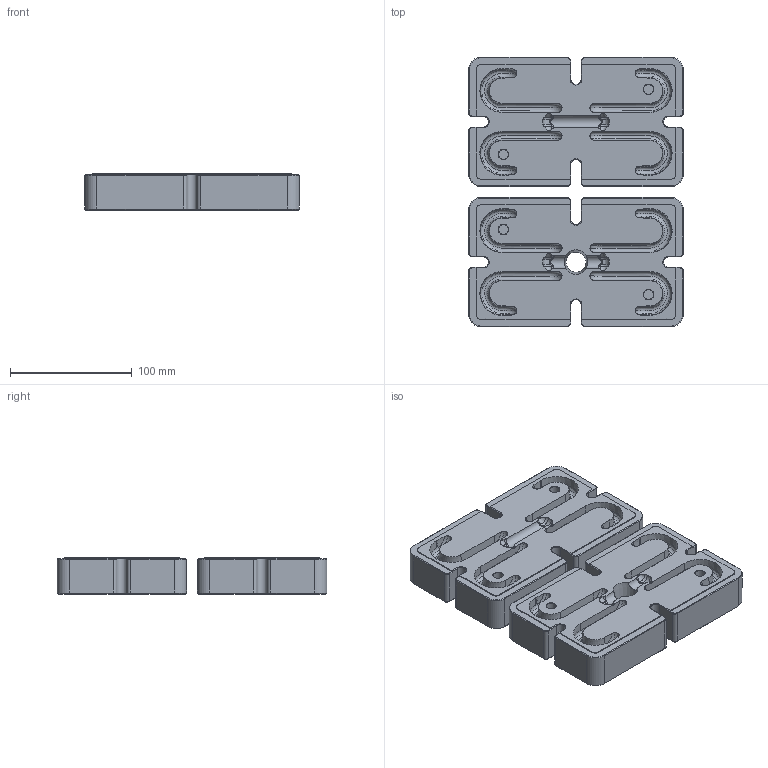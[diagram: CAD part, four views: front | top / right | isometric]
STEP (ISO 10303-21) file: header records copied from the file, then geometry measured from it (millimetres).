
FILE_DESCRIPTION(/* description */ (''),/* implementation_level */ '2;1');
FILE_NAME(/* name */ '4C Hook - Public Doc v2.step',/* time_stamp */ '2023-10-23T13:18:27+02:00',/* author */ (''),/* organization */ (''),/* preprocessor_version */ 'ST-DEVELOPER v20',/* originating_system */ 'Autodesk Translation Framework v12.14.0.127',/* authorisation */ '');
FILE_SCHEMA (('AUTOMOTIVE_DESIGN { 1 0 10303 214 3 1 1 }'));
Products named in the file (2): 4C Hook - Public Doc; MB - TP - Slots Center - Adapter v24
Assembly tree (1 placements, depth 2):
  4C Hook - Public Doc
    MB - TP - Slots Center - Adapter v24
Bounding box: 176 x 221 x 30 mm (x, y, z)
Volume: 997262.5 mm3; surface area: 129083.3 mm2
Topology: 2 solids, 2 shells, 485 faces, 1282 edges, 768 vertices
Faces by surface type: plane 172, bspline 160, cone 87, cylinder 66
Full cylindrical faces by diameter (mm): 2.5 x6, 8 x4, 16.5 x1
Entity records: 55865 total; most frequent: CARTESIAN_POINT 45263, ORIENTED_EDGE 2452, DIRECTION 1830, EDGE_CURVE 1226, VERTEX_POINT 760, AXIS2_PLACEMENT_3D 621, LINE 588, VECTOR 588
